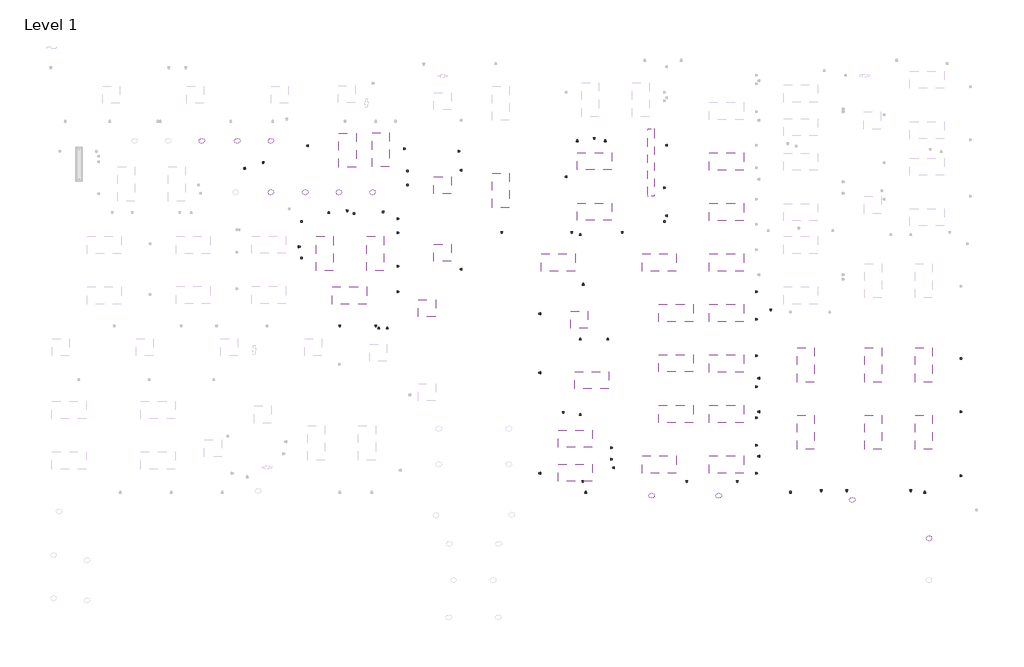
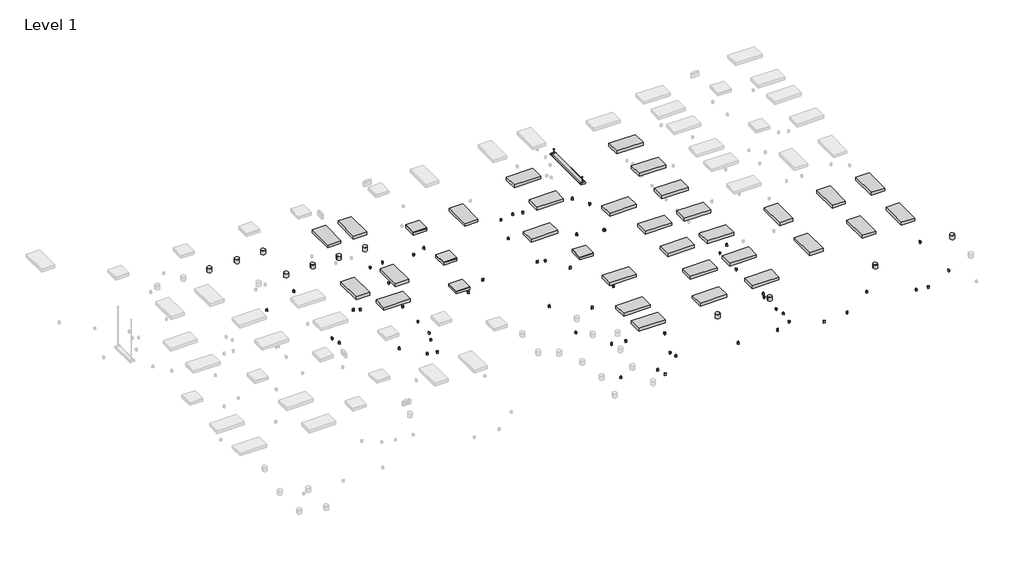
# One storey, part 9 of 10: 59 outlets, 57 light fixtures.
"""IFC4 building model written with IfcOpenShell, lengths in millimetres."""

from ifc_helpers import new_model, si_unit, origin, place, context, project, spatial, transform, mapped, element, save
from components import m_downlight_recessed_can_lv_203mm_diameter_9ee1ae92, m_duplex_receptacle_gfci_10251bba, m_pendant_light_linear_b0fb1284, m_troffer_light_parabolic_rectangular_a2_0610x1219mm_aa7a7dc7, m_troffer_light_parabolic_square_b3_610x610mm_801c9e30

model = new_model("IFC4")

# Units and contexts
model_context = context("Model", 3, world=origin())
ifc_project = project(units=[si_unit("LENGTHUNIT", "METRE", prefix="MILLI")], contexts=[model_context])

# Site, building, storey
site = spatial("IfcSite", under=ifc_project)
building = spatial("IfcBuilding", under=site)
storey = spatial("IfcBuildingStorey", under=building, Name="Level 1", Elevation=0.0)

# Light fixtures
placement = place(None, origin())
m_downlight_recessed_can_lv_203mm_diameter_shape = m_downlight_recessed_can_lv_203mm_diameter_9ee1ae92(model_context)
element("IfcLightFixture", 1, ObjectType="M_Downlight - Recessed Can : LV - 203mm Diameter", at=placement, inside=storey, context=model_context, shape_type="MappedRepresentation", body=[
    mapped(m_downlight_recessed_can_lv_203mm_diameter_shape, transform((-1340.0, 33184.9994, 3800.0), x_axis=(1.0, 0.0, 0.0), y_axis=(0.0, -1.0, 0.0), z_axis=(0.0, 0.0, -1.0))),
])
element("IfcLightFixture", 2, ObjectType="M_Downlight - Recessed Can : LV - 203mm Diameter", at=placement, inside=storey, context=model_context, shape_type="MappedRepresentation", body=[
    mapped(m_downlight_recessed_can_lv_203mm_diameter_shape, transform((-4080.0, 34555.0, 2500.0), x_axis=(1.0, 0.0, 0.0), y_axis=(0.0, -1.0, 0.0), z_axis=(0.0, 0.0, -1.0))),
])
element("IfcLightFixture", 3, ObjectType="M_Downlight - Recessed Can : LV - 203mm Diameter", at=placement, inside=storey, context=model_context, shape_type="MappedRepresentation", body=[
    mapped(m_downlight_recessed_can_lv_203mm_diameter_shape, transform((-8836.4347451, 34708.3717231, 2500.0), x_axis=(1.0, 0.0, 0.0), y_axis=(0.0, -1.0, 0.0), z_axis=(0.0, 0.0, -1.0))),
])
element("IfcLightFixture", 4, ObjectType="M_Downlight - Recessed Can : LV - 203mm Diameter", at=placement, inside=storey, context=model_context, shape_type="MappedRepresentation", body=[
    mapped(m_downlight_recessed_can_lv_203mm_diameter_shape, transform((-11227.7821716, 34708.3717231, 2500.0), x_axis=(1.0, 0.0, 0.0), y_axis=(0.0, -1.0, 0.0), z_axis=(0.0, 0.0, -1.0))),
])
element("IfcLightFixture", 5, ObjectType="M_Downlight - Recessed Can : SB - 102mm Diameter", at=placement, inside=storey, context=model_context, shape_type="MappedRepresentation", body=[
    mapped(m_downlight_recessed_can_lv_203mm_diameter_shape, transform((-27262.0, 47349.3742139, 2680.0), x_axis=(1.0, 0.0, 0.0), y_axis=(0.0, -1.0, 0.0), z_axis=(0.0, 0.0, -1.0))),
])
element("IfcLightFixture", 6, ObjectType="M_Downlight - Recessed Can : SB - 102mm Diameter", at=placement, inside=storey, context=model_context, shape_type="MappedRepresentation", body=[
    mapped(m_downlight_recessed_can_lv_203mm_diameter_shape, transform((-26000.0, 47349.3742139, 2680.0), x_axis=(1.0, 0.0, 0.0), y_axis=(0.0, -1.0, 0.0), z_axis=(0.0, 0.0, -1.0))),
])
element("IfcLightFixture", 7, ObjectType="M_Downlight - Recessed Can : SB - 102mm Diameter", at=placement, inside=storey, context=model_context, shape_type="MappedRepresentation", body=[
    mapped(m_downlight_recessed_can_lv_203mm_diameter_shape, transform((-24800.0, 47349.3742139, 2680.0), x_axis=(1.0, 0.0, 0.0), y_axis=(0.0, -1.0, 0.0), z_axis=(0.0, 0.0, -1.0))),
])
element("IfcLightFixture", 8, ObjectType="M_Downlight - Recessed Can : SB - 102mm Diameter", at=placement, inside=storey, context=model_context, shape_type="MappedRepresentation", body=[
    mapped(m_downlight_recessed_can_lv_203mm_diameter_shape, transform((-24800.0, 45520.0, 2680.0), x_axis=(1.0, 0.0, 0.0), y_axis=(0.0, -1.0, 0.0), z_axis=(0.0, 0.0, -1.0))),
])
element("IfcLightFixture", 9, ObjectType="M_Downlight - Recessed Can : SB - 102mm Diameter", at=placement, inside=storey, context=model_context, shape_type="MappedRepresentation", body=[
    mapped(m_downlight_recessed_can_lv_203mm_diameter_shape, transform((-23576.9816763, 45520.0, 2680.0), x_axis=(1.0, 0.0, 0.0), y_axis=(0.0, -1.0, 0.0), z_axis=(0.0, 0.0, -1.0))),
])
element("IfcLightFixture", 10, ObjectType="M_Downlight - Recessed Can : SB - 102mm Diameter", at=placement, inside=storey, context=model_context, shape_type="MappedRepresentation", body=[
    mapped(m_downlight_recessed_can_lv_203mm_diameter_shape, transform((-22376.9816763, 45520.0, 2680.0), x_axis=(1.0, 0.0, 0.0), y_axis=(0.0, -1.0, 0.0), z_axis=(0.0, 0.0, -1.0))),
])
element("IfcLightFixture", 11, ObjectType="M_Downlight - Recessed Can : SB - 102mm Diameter", at=placement, inside=storey, context=model_context, shape_type="MappedRepresentation", body=[
    mapped(m_downlight_recessed_can_lv_203mm_diameter_shape, transform((-21176.9816763, 45520.0, 2680.0), x_axis=(1.0, 0.0, 0.0), y_axis=(0.0, -1.0, 0.0), z_axis=(0.0, 0.0, -1.0))),
])
m_duplex_receptacle_gfci_shape = m_duplex_receptacle_gfci_10251bba(model_context)
element("IfcLightFixture", 12, ObjectType="M_Lighting Switches : Single Pole", at=placement, inside=storey, context=model_context, shape_type="MappedRepresentation", body=[
    mapped(m_duplex_receptacle_gfci_shape, transform((-20960.0, 40660.0, 1200.0), x_axis=(1.0, 0.0, 0.0), y_axis=(0.0, 0.0, 1.0), z_axis=(0.0, -1.0, 0.0))),
])
element("IfcLightFixture", 13, ObjectType="M_Lighting Switches : Single Pole", at=placement, inside=storey, context=model_context, shape_type="MappedRepresentation", body=[
    mapped(m_duplex_receptacle_gfci_shape, transform((-22340.0, 40784.0, 1200.0), x_axis=(-1.0, 0.0, 0.0), y_axis=(0.0, 0.0, 1.0), z_axis=(0.0, 1.0, 0.0))),
])
element("IfcLightFixture", 14, ObjectType="M_Lighting Switches : Single Pole", at=placement, inside=storey, context=model_context, shape_type="MappedRepresentation", body=[
    mapped(m_duplex_receptacle_gfci_shape, transform((-19954.0, 46280.0, 1200.0), x_axis=(0.0, -1.0, 0.0), y_axis=(0.0, 0.0, 1.0), z_axis=(-1.0, 0.0, 0.0))),
])
element("IfcLightFixture", 15, ObjectType="M_Lighting Switches : Single Pole", at=placement, inside=storey, context=model_context, shape_type="MappedRepresentation", body=[
    mapped(m_duplex_receptacle_gfci_shape, transform((-17996.0, 46309.9542471, 1200.0), x_axis=(0.0, 1.0, 0.0), y_axis=(0.0, 0.0, 1.0), z_axis=(1.0, 0.0, 0.0))),
])
element("IfcLightFixture", 16, ObjectType="M_Lighting Switches : Single Pole", at=placement, inside=storey, context=model_context, shape_type="MappedRepresentation", body=[
    mapped(m_duplex_receptacle_gfci_shape, transform((-17996.0, 42777.6448, 1200.0), x_axis=(0.0, 1.0, 0.0), y_axis=(0.0, 0.0, 1.0), z_axis=(1.0, 0.0, 0.0))),
])
element("IfcLightFixture", 17, ObjectType="M_Lighting Switches : Single Pole", at=placement, inside=storey, context=model_context, shape_type="MappedRepresentation", body=[
    mapped(m_duplex_receptacle_gfci_shape, transform((-12279.975, 44114.0, 1200.0), x_axis=(-1.0, 0.0, 0.0), y_axis=(0.0, 0.0, 1.0), z_axis=(0.0, 1.0, 0.0))),
])
element("IfcLightFixture", 18, ObjectType="M_Lighting Switches : Single Pole", at=placement, inside=storey, context=model_context, shape_type="MappedRepresentation", body=[
    mapped(m_duplex_receptacle_gfci_shape, transform((-10794.0, 45680.0, 1200.0), x_axis=(0.0, -1.0, 0.0), y_axis=(0.0, 0.0, 1.0), z_axis=(-1.0, 0.0, 0.0))),
])
element("IfcLightFixture", 19, ObjectType="M_Lighting Switches : Single Pole", at=placement, inside=storey, context=model_context, shape_type="MappedRepresentation", body=[
    mapped(m_duplex_receptacle_gfci_shape, transform((-4280.0, 34904.0, 1200.0), x_axis=(-1.0, 0.0, 0.0), y_axis=(0.0, 0.0, 1.0), z_axis=(0.0, 1.0, 0.0))),
])
element("IfcLightFixture", 20, ObjectType="M_Lighting Switches : Single Pole", at=placement, inside=storey, context=model_context, shape_type="MappedRepresentation", body=[
    mapped(m_duplex_receptacle_gfci_shape, transform((-12684.0, 36409.9453301, 1200.0), x_axis=(0.0, -1.0, 0.0), y_axis=(0.0, 0.0, 1.0), z_axis=(-1.0, 0.0, 0.0))),
])
element("IfcLightFixture", 21, ObjectType="M_Lighting Switches : Single Pole", at=placement, inside=storey, context=model_context, shape_type="MappedRepresentation", body=[
    mapped(m_duplex_receptacle_gfci_shape, transform((-12799.975, 40260.0, 1200.0), x_axis=(1.0, 0.0, 0.0), y_axis=(0.0, 0.0, 1.0), z_axis=(0.0, -1.0, 0.0))),
])
element("IfcLightFixture", 22, ObjectType="M_Lighting Switches : Single Pole", at=placement, inside=storey, context=model_context, shape_type="MappedRepresentation", body=[
    mapped(m_duplex_receptacle_gfci_shape, transform((-13659.975, 42218.0006932, 1200.0), x_axis=(1.0, 0.0, 0.0), y_axis=(0.0, 0.0, 1.0), z_axis=(0.0, -1.0, 0.0))),
])
m_pendant_light_linear_shape = m_pendant_light_linear_b0fb1284(model_context)
element("IfcLightFixture", 23, ObjectType="M_Pendant Light - Linear : Q1 - 1219mm", at=placement, inside=storey, context=model_context, shape_type="MappedRepresentation", body=[
    mapped(m_pendant_light_linear_shape, transform((-11245.0, 46577.1187843, 2800.0), x_axis=(0.0, -1.0, 0.0), y_axis=(-1.0, 0.0, 0.0), z_axis=(0.0, 0.0, -1.0))),
])
m_troffer_light_parabolic_rectangular_a2_0610x1219mm_shape = m_troffer_light_parabolic_rectangular_a2_0610x1219mm_aa7a7dc7(model_context)
element("IfcLightFixture", 24, ObjectType="M_Troffer Light - Parabolic Rectangular : A2 - 0610x1219mm", at=placement, inside=storey, context=model_context, shape_type="MappedRepresentation", body=[
    mapped(m_troffer_light_parabolic_rectangular_a2_0610x1219mm_shape, transform((-8562.6, 45121.5, 2680.0), x_axis=(-1.0, 0.0, 0.0), y_axis=(0.0, 1.0, 0.0), z_axis=(0.0, 0.0, -1.0))),
])
element("IfcLightFixture", 25, ObjectType="M_Troffer Light - Parabolic Rectangular : A2 - 0610x1219mm", at=placement, inside=storey, context=model_context, shape_type="MappedRepresentation", body=[
    mapped(m_troffer_light_parabolic_rectangular_a2_0610x1219mm_shape, transform((-8562.6, 43321.5, 2680.0), x_axis=(-1.0, 0.0, 0.0), y_axis=(0.0, 1.0, 0.0), z_axis=(0.0, 0.0, -1.0))),
])
element("IfcLightFixture", 26, ObjectType="M_Troffer Light - Parabolic Rectangular : A2 - 0610x1219mm", at=placement, inside=storey, context=model_context, shape_type="MappedRepresentation", body=[
    mapped(m_troffer_light_parabolic_rectangular_a2_0610x1219mm_shape, transform((-14562.6, 43321.5, 2680.0), x_axis=(-1.0, 0.0, 0.0), y_axis=(0.0, 1.0, 0.0), z_axis=(0.0, 0.0, -1.0))),
])
element("IfcLightFixture", 27, ObjectType="M_Troffer Light - Parabolic Rectangular : A2 - 0610x1219mm", at=placement, inside=storey, context=model_context, shape_type="MappedRepresentation", body=[
    mapped(m_troffer_light_parabolic_rectangular_a2_0610x1219mm_shape, transform((-10362.6, 41521.5, 2680.0), x_axis=(-1.0, 0.0, 0.0), y_axis=(0.0, 1.0, 0.0), z_axis=(0.0, 0.0, -1.0))),
])
element("IfcLightFixture", 28, ObjectType="M_Troffer Light - Parabolic Rectangular : A2 - 0610x1219mm", at=placement, inside=storey, context=model_context, shape_type="MappedRepresentation", body=[
    mapped(m_troffer_light_parabolic_rectangular_a2_0610x1219mm_shape, transform((-8562.6, 41521.5, 2680.0), x_axis=(-1.0, 0.0, 0.0), y_axis=(0.0, 1.0, 0.0), z_axis=(0.0, 0.0, -1.0))),
])
element("IfcLightFixture", 29, ObjectType="M_Troffer Light - Parabolic Rectangular : A2 - 0610x1219mm", at=placement, inside=storey, context=model_context, shape_type="MappedRepresentation", body=[
    mapped(m_troffer_light_parabolic_rectangular_a2_0610x1219mm_shape, transform((-8562.6, 39721.5, 2680.0), x_axis=(-1.0, 0.0, 0.0), y_axis=(0.0, 1.0, 0.0), z_axis=(0.0, 0.0, -1.0))),
])
element("IfcLightFixture", 30, ObjectType="M_Troffer Light - Parabolic Rectangular : A2 - 0610x1219mm", at=placement, inside=storey, context=model_context, shape_type="MappedRepresentation", body=[
    mapped(m_troffer_light_parabolic_rectangular_a2_0610x1219mm_shape, transform((-10362.6, 39731.1, 2680.0), x_axis=(-1.0, 0.0, 0.0), y_axis=(0.0, 1.0, 0.0), z_axis=(0.0, 0.0, -1.0))),
])
element("IfcLightFixture", 31, ObjectType="M_Troffer Light - Parabolic Rectangular : A2 - 0610x1219mm", at=placement, inside=storey, context=model_context, shape_type="MappedRepresentation", body=[
    mapped(m_troffer_light_parabolic_rectangular_a2_0610x1219mm_shape, transform((-10362.6, 37921.5, 2680.0), x_axis=(-1.0, 0.0, 0.0), y_axis=(0.0, 1.0, 0.0), z_axis=(0.0, 0.0, -1.0))),
])
element("IfcLightFixture", 32, ObjectType="M_Troffer Light - Parabolic Rectangular : A2 - 0610x1219mm", at=placement, inside=storey, context=model_context, shape_type="MappedRepresentation", body=[
    mapped(m_troffer_light_parabolic_rectangular_a2_0610x1219mm_shape, transform((-8562.6, 36121.5, 2680.0), x_axis=(-1.0, 0.0, 0.0), y_axis=(0.0, 1.0, 0.0), z_axis=(0.0, 0.0, -1.0))),
])
element("IfcLightFixture", 33, ObjectType="M_Troffer Light - Parabolic Rectangular : A2 - 0610x1219mm", at=placement, inside=storey, context=model_context, shape_type="MappedRepresentation", body=[
    mapped(m_troffer_light_parabolic_rectangular_a2_0610x1219mm_shape, transform((-10962.6, 36121.5, 2680.0), x_axis=(-1.0, 0.0, 0.0), y_axis=(0.0, 1.0, 0.0), z_axis=(0.0, 0.0, -1.0))),
])
element("IfcLightFixture", 34, ObjectType="M_Troffer Light - Parabolic Rectangular : A2 - 0610x1219mm", at=placement, inside=storey, context=model_context, shape_type="MappedRepresentation", body=[
    mapped(m_troffer_light_parabolic_rectangular_a2_0610x1219mm_shape, transform((-13362.6, 39131.1, 2680.0), x_axis=(-1.0, 0.0, 0.0), y_axis=(0.0, 1.0, 0.0), z_axis=(0.0, 0.0, -1.0))),
])
element("IfcLightFixture", 35, ObjectType="M_Troffer Light - Parabolic Rectangular : A2 - 0610x1219mm", at=placement, inside=storey, context=model_context, shape_type="MappedRepresentation", body=[
    mapped(m_troffer_light_parabolic_rectangular_a2_0610x1219mm_shape, transform((-1836.5, 39363.9, 2680.0), x_axis=(0.0, -1.0, 0.0), y_axis=(-1.0, 0.0, 0.0), z_axis=(0.0, 0.0, -1.0))),
])
element("IfcLightFixture", 36, ObjectType="M_Troffer Light - Parabolic Rectangular : A2 - 0610x1219mm", at=placement, inside=storey, context=model_context, shape_type="MappedRepresentation", body=[
    mapped(m_troffer_light_parabolic_rectangular_a2_0610x1219mm_shape, transform((-3636.5, 39363.9, 2680.0), x_axis=(0.0, -1.0, 0.0), y_axis=(-1.0, 0.0, 0.0), z_axis=(0.0, 0.0, -1.0))),
])
element("IfcLightFixture", 37, ObjectType="M_Troffer Light - Parabolic Rectangular : A2 - 0610x1219mm", at=placement, inside=storey, context=model_context, shape_type="MappedRepresentation", body=[
    mapped(m_troffer_light_parabolic_rectangular_a2_0610x1219mm_shape, transform((-1836.5, 36963.9, 2680.0), x_axis=(0.0, -1.0, 0.0), y_axis=(-1.0, 0.0, 0.0), z_axis=(0.0, 0.0, -1.0))),
])
element("IfcLightFixture", 38, ObjectType="M_Troffer Light - Parabolic Rectangular : A2 - 0610x1219mm", at=placement, inside=storey, context=model_context, shape_type="MappedRepresentation", body=[
    mapped(m_troffer_light_parabolic_rectangular_a2_0610x1219mm_shape, transform((-6046.1, 39363.9, 2680.0), x_axis=(0.0, -1.0, 0.0), y_axis=(-1.0, 0.0, 0.0), z_axis=(0.0, 0.0, -1.0))),
])
element("IfcLightFixture", 39, ObjectType="M_Troffer Light - Parabolic Rectangular : A2 - 0610x1219mm", at=placement, inside=storey, context=model_context, shape_type="MappedRepresentation", body=[
    mapped(m_troffer_light_parabolic_rectangular_a2_0610x1219mm_shape, transform((-6046.1, 36963.9, 2680.0), x_axis=(0.0, -1.0, 0.0), y_axis=(-1.0, 0.0, 0.0), z_axis=(0.0, 0.0, -1.0))),
])
element("IfcLightFixture", 40, ObjectType="M_Troffer Light - Parabolic Rectangular : A2B - 0610x1219mm", at=placement, inside=storey, context=model_context, shape_type="MappedRepresentation", body=[
    mapped(m_troffer_light_parabolic_rectangular_a2_0610x1219mm_shape, transform((-8562.6, 46921.5, 2680.0), x_axis=(-1.0, 0.0, 0.0), y_axis=(0.0, 1.0, 0.0), z_axis=(0.0, 0.0, -1.0))),
])
element("IfcLightFixture", 41, ObjectType="M_Troffer Light - Parabolic Rectangular : A2B - 0610x1219mm", at=placement, inside=storey, context=model_context, shape_type="MappedRepresentation", body=[
    mapped(m_troffer_light_parabolic_rectangular_a2_0610x1219mm_shape, transform((-10962.6, 43321.5, 2680.0), x_axis=(-1.0, 0.0, 0.0), y_axis=(0.0, 1.0, 0.0), z_axis=(0.0, 0.0, -1.0))),
])
element("IfcLightFixture", 42, ObjectType="M_Troffer Light - Parabolic Rectangular : A2B - 0610x1219mm", at=placement, inside=storey, context=model_context, shape_type="MappedRepresentation", body=[
    mapped(m_troffer_light_parabolic_rectangular_a2_0610x1219mm_shape, transform((-8562.6, 37921.5, 2680.0), x_axis=(-1.0, 0.0, 0.0), y_axis=(0.0, 1.0, 0.0), z_axis=(0.0, 0.0, -1.0))),
])
element("IfcLightFixture", 43, ObjectType="M_Troffer Light - Parabolic Rectangular : A2B - 0610x1219mm", at=placement, inside=storey, context=model_context, shape_type="MappedRepresentation", body=[
    mapped(m_troffer_light_parabolic_rectangular_a2_0610x1219mm_shape, transform((-3636.5, 36963.9, 2680.0), x_axis=(0.0, -1.0, 0.0), y_axis=(-1.0, 0.0, 0.0), z_axis=(0.0, 0.0, -1.0))),
])
element("IfcLightFixture", 44, ObjectType="M_Troffer Light - Parabolic Rectangular : B1 - 0610x1219mm", at=placement, inside=storey, context=model_context, shape_type="MappedRepresentation", body=[
    mapped(m_troffer_light_parabolic_rectangular_a2_0610x1219mm_shape, transform((-13264.6, 45124.5, 2680.0), x_axis=(-1.0, 0.0, 0.0), y_axis=(0.0, 1.0, 0.0), z_axis=(0.0, 0.0, -1.0))),
])
element("IfcLightFixture", 45, ObjectType="M_Troffer Light - Parabolic Rectangular : B1 - 0610x1219mm", at=placement, inside=storey, context=model_context, shape_type="MappedRepresentation", body=[
    mapped(m_troffer_light_parabolic_rectangular_a2_0610x1219mm_shape, transform((-13264.6, 46924.5, 2680.0), x_axis=(-1.0, 0.0, 0.0), y_axis=(0.0, 1.0, 0.0), z_axis=(0.0, 0.0, -1.0))),
])
element("IfcLightFixture", 46, ObjectType="M_Troffer Light - Parabolic Rectangular : B1 - 0610x1219mm", at=placement, inside=storey, context=model_context, shape_type="MappedRepresentation", body=[
    mapped(m_troffer_light_parabolic_rectangular_a2_0610x1219mm_shape, transform((-13949.6, 35825.0, 2680.0), x_axis=(-1.0, 0.0, 0.0), y_axis=(0.0, 1.0, 0.0), z_axis=(0.0, 0.0, -1.0))),
])
element("IfcLightFixture", 47, ObjectType="M_Troffer Light - Parabolic Rectangular : B1 - 0610x1219mm", at=placement, inside=storey, context=model_context, shape_type="MappedRepresentation", body=[
    mapped(m_troffer_light_parabolic_rectangular_a2_0610x1219mm_shape, transform((-13949.6, 37034.6, 2680.0), x_axis=(-1.0, 0.0, 0.0), y_axis=(0.0, 1.0, 0.0), z_axis=(0.0, 0.0, -1.0))),
])
element("IfcLightFixture", 48, ObjectType="M_Troffer Light - Parabolic Rectangular : B1 - 0610x1219mm", at=placement, inside=storey, context=model_context, shape_type="MappedRepresentation", body=[
    mapped(m_troffer_light_parabolic_rectangular_a2_0610x1219mm_shape, transform((-16918.0, 45587.4, 2680.0), x_axis=(0.0, -1.0, 0.0), y_axis=(-1.0, 0.0, 0.0), z_axis=(0.0, 0.0, -1.0))),
])
element("IfcLightFixture", 49, ObjectType="M_Troffer Light - Parabolic Rectangular : B18 - 0610x1219mm", at=placement, inside=storey, context=model_context, shape_type="MappedRepresentation", body=[
    mapped(m_troffer_light_parabolic_rectangular_a2_0610x1219mm_shape, transform((-22376.9816763, 47018.4, 2680.0), x_axis=(0.0, -1.0, 0.0), y_axis=(-1.0, 0.0, 0.0), z_axis=(0.0, 0.0, -1.0))),
])
element("IfcLightFixture", 50, ObjectType="M_Troffer Light - Parabolic Rectangular : B18 - 0610x1219mm", at=placement, inside=storey, context=model_context, shape_type="MappedRepresentation", body=[
    mapped(m_troffer_light_parabolic_rectangular_a2_0610x1219mm_shape, transform((-21186.5816763, 47037.6, 2680.0), x_axis=(0.0, -1.0, 0.0), y_axis=(-1.0, 0.0, 0.0), z_axis=(0.0, 0.0, -1.0))),
])
element("IfcLightFixture", 51, ObjectType="M_Troffer Light - Parabolic Rectangular : C18 - 0610x1219mm", at=placement, inside=storey, context=model_context, shape_type="MappedRepresentation", body=[
    mapped(m_troffer_light_parabolic_rectangular_a2_0610x1219mm_shape, transform((-22000.1172849, 42144.9870757, 2680.0), x_axis=(-1.0, 0.0, 0.0), y_axis=(0.0, 1.0, 0.0), z_axis=(0.0, 0.0, -1.0))),
])
element("IfcLightFixture", 52, ObjectType="M_Troffer Light - Parabolic Rectangular : C18 - 0610x1219mm", at=placement, inside=storey, context=model_context, shape_type="MappedRepresentation", body=[
    mapped(m_troffer_light_parabolic_rectangular_a2_0610x1219mm_shape, transform((-21390.5172849, 43335.3870757, 2680.0), x_axis=(0.0, -1.0, 0.0), y_axis=(-1.0, 0.0, 0.0), z_axis=(0.0, 0.0, -1.0))),
])
element("IfcLightFixture", 53, ObjectType="M_Troffer Light - Parabolic Rectangular : C18B - 0610x1219mm", at=placement, inside=storey, context=model_context, shape_type="MappedRepresentation", body=[
    mapped(m_troffer_light_parabolic_rectangular_a2_0610x1219mm_shape, transform((-23190.5172849, 43335.3870757, 2680.0), x_axis=(0.0, -1.0, 0.0), y_axis=(-1.0, 0.0, 0.0), z_axis=(0.0, 0.0, -1.0))),
])
m_troffer_light_parabolic_square_b3_610x610mm_shape = m_troffer_light_parabolic_square_b3_610x610mm_801c9e30(model_context)
element("IfcLightFixture", 54, ObjectType="M_Troffer Light - Parabolic Square : B3 - 610x610mm", at=placement, inside=storey, context=model_context, shape_type="MappedRepresentation", body=[
    mapped(m_troffer_light_parabolic_square_b3_610x610mm_shape, transform((-19238.2, 41081.0003466, 2680.0), x_axis=(1.0, 0.0, 0.0), y_axis=(0.0, -1.0, 0.0), z_axis=(0.0, 0.0, -1.0))),
])
element("IfcLightFixture", 55, ObjectType="M_Troffer Light - Parabolic Square : B3 - 610x610mm", at=placement, inside=storey, context=model_context, shape_type="MappedRepresentation", body=[
    mapped(m_troffer_light_parabolic_square_b3_610x610mm_shape, transform((-18683.2, 43061.5003466, 2680.0), x_axis=(1.0, 0.0, 0.0), y_axis=(0.0, -1.0, 0.0), z_axis=(0.0, 0.0, -1.0))),
])
element("IfcLightFixture", 56, ObjectType="M_Troffer Light - Parabolic Square : B3 - 610x610mm", at=placement, inside=storey, context=model_context, shape_type="MappedRepresentation", body=[
    mapped(m_troffer_light_parabolic_square_b3_610x610mm_shape, transform((-18683.2, 45461.5003466, 2680.0), x_axis=(1.0, 0.0, 0.0), y_axis=(0.0, -1.0, 0.0), z_axis=(0.0, 0.0, -1.0))),
])
element("IfcLightFixture", 57, ObjectType="M_Troffer Light - Parabolic Square : B3 - 610x610mm", at=placement, inside=storey, context=model_context, shape_type="MappedRepresentation", body=[
    mapped(m_troffer_light_parabolic_square_b3_610x610mm_shape, transform((-13805.7, 40670.0003466, 2680.0), x_axis=(1.0, 0.0, 0.0), y_axis=(0.0, -1.0, 0.0), z_axis=(0.0, 0.0, -1.0))),
])

# Outlets
element("IfcOutlet", 58, ObjectType="M_Duplex Receptacle : Standard", at=placement, inside=storey, context=model_context, shape_type="MappedRepresentation", body=[
    mapped(m_duplex_receptacle_gfci_shape, transform((-25077.8889821, 46596.6104774, 500.0), x_axis=(-0.983537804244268, -0.18070248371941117, 0.0), y_axis=(0.0, 0.0, 1.0), z_axis=(-0.18070248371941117, 0.983537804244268, 0.0))),
])
element("IfcOutlet", 59, ObjectType="M_Duplex Receptacle : Standard", at=placement, inside=storey, context=model_context, shape_type="MappedRepresentation", body=[
    mapped(m_duplex_receptacle_gfci_shape, transform((-23814.0, 43577.6448, 500.0), x_axis=(0.0, -1.0, 0.0), y_axis=(0.0, 0.0, 1.0), z_axis=(-1.0, 0.0, 0.0))),
])
element("IfcOutlet", 60, ObjectType="M_Duplex Receptacle : Standard", at=placement, inside=storey, context=model_context, shape_type="MappedRepresentation", body=[
    mapped(m_duplex_receptacle_gfci_shape, transform((-23690.0, 43177.6448, 500.0), x_axis=(0.0, 1.0, 0.0), y_axis=(0.0, 0.0, 1.0), z_axis=(1.0, 0.0, 0.0))),
])
element("IfcOutlet", 61, ObjectType="M_Duplex Receptacle : Standard", at=placement, inside=storey, context=model_context, shape_type="MappedRepresentation", body=[
    mapped(m_duplex_receptacle_gfci_shape, transform((-23690.0, 44480.0, 500.0), x_axis=(0.0, 1.0, 0.0), y_axis=(0.0, 0.0, 1.0), z_axis=(1.0, 0.0, 0.0))),
])
element("IfcOutlet", 62, ObjectType="M_Duplex Receptacle : Standard", at=placement, inside=storey, context=model_context, shape_type="MappedRepresentation", body=[
    mapped(m_duplex_receptacle_gfci_shape, transform((-22740.0, 44780.0, 500.0), x_axis=(1.0, 0.0, 0.0), y_axis=(0.0, 0.0, 1.0), z_axis=(0.0, -1.0, 0.0))),
])
element("IfcOutlet", 63, ObjectType="M_Duplex Receptacle : Standard", at=placement, inside=storey, context=model_context, shape_type="MappedRepresentation", body=[
    mapped(m_duplex_receptacle_gfci_shape, transform((-21840.0, 44740.0, 500.0), x_axis=(1.0, 0.0, 0.0), y_axis=(0.0, 0.0, 1.0), z_axis=(0.0, -1.0, 0.0))),
])
element("IfcOutlet", 64, ObjectType="M_Duplex Receptacle : Standard", at=placement, inside=storey, context=model_context, shape_type="MappedRepresentation", body=[
    mapped(m_duplex_receptacle_gfci_shape, transform((-20290.0, 44580.0, 500.0), x_axis=(0.0, -1.0, 0.0), y_axis=(0.0, 0.0, 1.0), z_axis=(-1.0, 0.0, 0.0))),
])
element("IfcOutlet", 65, ObjectType="M_Duplex Receptacle : Standard", at=placement, inside=storey, context=model_context, shape_type="MappedRepresentation", body=[
    mapped(m_duplex_receptacle_gfci_shape, transform((-20290.0, 44080.0, 500.0), x_axis=(0.0, -1.0, 0.0), y_axis=(0.0, 0.0, 1.0), z_axis=(-1.0, 0.0, 0.0))),
])
element("IfcOutlet", 66, ObjectType="M_Duplex Receptacle : Standard", at=placement, inside=storey, context=model_context, shape_type="MappedRepresentation", body=[
    mapped(m_duplex_receptacle_gfci_shape, transform((-20290.0, 42877.6448, 500.0), x_axis=(0.0, -1.0, 0.0), y_axis=(0.0, 0.0, 1.0), z_axis=(-1.0, 0.0, 0.0))),
])
element("IfcOutlet", 67, ObjectType="M_Duplex Receptacle : Standard", at=placement, inside=storey, context=model_context, shape_type="MappedRepresentation", body=[
    mapped(m_duplex_receptacle_gfci_shape, transform((-20290.0, 41977.6448, 500.0), x_axis=(0.0, -1.0, 0.0), y_axis=(0.0, 0.0, 1.0), z_axis=(-1.0, 0.0, 0.0))),
])
element("IfcOutlet", 68, ObjectType="M_Duplex Receptacle : Standard", at=placement, inside=storey, context=model_context, shape_type="MappedRepresentation", body=[
    mapped(m_duplex_receptacle_gfci_shape, transform((-21060.0, 40784.0, 500.0), x_axis=(-1.0, 0.0, 0.0), y_axis=(0.0, 0.0, 1.0), z_axis=(0.0, 1.0, 0.0))),
])
element("IfcOutlet", 69, ObjectType="M_Duplex Receptacle : Standard", at=placement, inside=storey, context=model_context, shape_type="MappedRepresentation", body=[
    mapped(m_duplex_receptacle_gfci_shape, transform((-20660.0, 40660.0, 500.0), x_axis=(1.0, 0.0, 0.0), y_axis=(0.0, 0.0, 1.0), z_axis=(0.0, -1.0, 0.0))),
])
element("IfcOutlet", 70, ObjectType="M_Duplex Receptacle : Standard", at=placement, inside=storey, context=model_context, shape_type="MappedRepresentation", body=[
    mapped(m_duplex_receptacle_gfci_shape, transform((-23475.0, 47180.0, 500.0), x_axis=(0.0, 1.0, 0.0), y_axis=(0.0, 0.0, 1.0), z_axis=(1.0, 0.0, 0.0))),
])
element("IfcOutlet", 71, ObjectType="M_Duplex Receptacle : Standard", at=placement, inside=storey, context=model_context, shape_type="MappedRepresentation", body=[
    mapped(m_duplex_receptacle_gfci_shape, transform((-20060.0, 47080.0, 500.0), x_axis=(0.0, -1.0, 0.0), y_axis=(0.0, 0.0, 1.0), z_axis=(-1.0, 0.0, 0.0))),
])
element("IfcOutlet", 72, ObjectType="M_Duplex Receptacle : Standard", at=placement, inside=storey, context=model_context, shape_type="MappedRepresentation", body=[
    mapped(m_duplex_receptacle_gfci_shape, transform((-19954.0, 45780.0, 500.0), x_axis=(0.0, -1.0, 0.0), y_axis=(0.0, 0.0, 1.0), z_axis=(-1.0, 0.0, 0.0))),
])
element("IfcOutlet", 73, ObjectType="M_Duplex Receptacle : Standard", at=placement, inside=storey, context=model_context, shape_type="MappedRepresentation", body=[
    mapped(m_duplex_receptacle_gfci_shape, transform((-20803.4505379, 44845.6116718, 500.0), x_axis=(-0.9995380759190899, 0.030391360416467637, 0.0), y_axis=(0.0, 0.0, 1.0), z_axis=(0.030391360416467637, 0.9995380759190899, 0.0))),
])
element("IfcOutlet", 74, ObjectType="M_Duplex Receptacle : Standard", at=placement, inside=storey, context=model_context, shape_type="MappedRepresentation", body=[
    mapped(m_duplex_receptacle_gfci_shape, transform((-22080.6120169, 44884.4442843, 500.0), x_axis=(-0.9995380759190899, 0.030391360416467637, 0.0), y_axis=(0.0, 0.0, 1.0), z_axis=(0.030391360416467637, 0.9995380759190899, 0.0))),
])
element("IfcOutlet", 75, ObjectType="M_Duplex Receptacle : Standard", at=placement, inside=storey, context=model_context, shape_type="MappedRepresentation", body=[
    mapped(m_duplex_receptacle_gfci_shape, transform((-25732.7340608, 46350.222254, 500.0), x_axis=(0.983537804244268, 0.18070248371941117, 0.0), y_axis=(0.0, 0.0, 1.0), z_axis=(0.18070248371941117, -0.983537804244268, 0.0))),
])
element("IfcOutlet", 76, ObjectType="M_Duplex Receptacle : Standard", at=placement, inside=storey, context=model_context, shape_type="MappedRepresentation", body=[
    mapped(m_duplex_receptacle_gfci_shape, transform((-18120.0, 46990.0, 500.0), x_axis=(0.0, -1.0, 0.0), y_axis=(0.0, 0.0, 1.0), z_axis=(-1.0, 0.0, 0.0))),
])
element("IfcOutlet", 77, ObjectType="M_Duplex Receptacle : Standard", at=placement, inside=storey, context=model_context, shape_type="MappedRepresentation", body=[
    mapped(m_duplex_receptacle_gfci_shape, transform((-13279.975, 47459.0, 500.0), x_axis=(-1.0, 0.0, 0.0), y_axis=(0.0, 0.0, 1.0), z_axis=(0.0, 1.0, 0.0))),
])
element("IfcOutlet", 78, ObjectType="M_Duplex Receptacle : Standard", at=placement, inside=storey, context=model_context, shape_type="MappedRepresentation", body=[
    mapped(m_duplex_receptacle_gfci_shape, transform((-13879.975, 47335.0, 500.0), x_axis=(1.0, 0.0, 0.0), y_axis=(0.0, 0.0, 1.0), z_axis=(0.0, -1.0, 0.0))),
])
element("IfcOutlet", 79, ObjectType="M_Duplex Receptacle : Standard", at=placement, inside=storey, context=model_context, shape_type="MappedRepresentation", body=[
    mapped(m_duplex_receptacle_gfci_shape, transform((-10670.0, 47190.0, 500.0), x_axis=(0.0, 1.0, 0.0), y_axis=(0.0, 0.0, 1.0), z_axis=(1.0, 0.0, 0.0))),
])
element("IfcOutlet", 80, ObjectType="M_Duplex Receptacle : Standard", at=placement, inside=storey, context=model_context, shape_type="MappedRepresentation", body=[
    mapped(m_duplex_receptacle_gfci_shape, transform((-6980.0, 41354.0, 500.0), x_axis=(-1.0, 0.0, 0.0), y_axis=(0.0, 0.0, 1.0), z_axis=(0.0, 1.0, 0.0))),
])
element("IfcOutlet", 81, ObjectType="M_Duplex Receptacle : Standard", at=placement, inside=storey, context=model_context, shape_type="MappedRepresentation", body=[
    mapped(m_duplex_receptacle_gfci_shape, transform((-7510.0, 41977.6448, 500.0), x_axis=(0.0, -1.0, 0.0), y_axis=(0.0, 0.0, 1.0), z_axis=(-1.0, 0.0, 0.0))),
])
element("IfcOutlet", 82, ObjectType="M_Duplex Receptacle : Standard", at=placement, inside=storey, context=model_context, shape_type="MappedRepresentation", body=[
    mapped(m_duplex_receptacle_gfci_shape, transform((-7510.0, 40995.3792, 500.0), x_axis=(0.0, -1.0, 0.0), y_axis=(0.0, 0.0, 1.0), z_axis=(-1.0, 0.0, 0.0))),
])
element("IfcOutlet", 83, ObjectType="M_Duplex Receptacle : Standard", at=placement, inside=storey, context=model_context, shape_type="MappedRepresentation", body=[
    mapped(m_duplex_receptacle_gfci_shape, transform((-7510.0, 39695.3792, 500.0), x_axis=(0.0, -1.0, 0.0), y_axis=(0.0, 0.0, 1.0), z_axis=(-1.0, 0.0, 0.0))),
])
element("IfcOutlet", 84, ObjectType="M_Duplex Receptacle : Standard", at=placement, inside=storey, context=model_context, shape_type="MappedRepresentation", body=[
    mapped(m_duplex_receptacle_gfci_shape, transform((-7510.0, 38595.3792, 500.0), x_axis=(0.0, -1.0, 0.0), y_axis=(0.0, 0.0, 1.0), z_axis=(-1.0, 0.0, 0.0))),
])
element("IfcOutlet", 85, ObjectType="M_Duplex Receptacle : Standard", at=placement, inside=storey, context=model_context, shape_type="MappedRepresentation", body=[
    mapped(m_duplex_receptacle_gfci_shape, transform((-7386.0, 38895.3792, 500.0), x_axis=(0.0, 1.0, 0.0), y_axis=(0.0, 0.0, 1.0), z_axis=(1.0, 0.0, 0.0))),
])
element("IfcOutlet", 86, ObjectType="M_Duplex Receptacle : Standard", at=placement, inside=storey, context=model_context, shape_type="MappedRepresentation", body=[
    mapped(m_duplex_receptacle_gfci_shape, transform((-7386.0, 37691.2448, 500.0), x_axis=(0.0, 1.0, 0.0), y_axis=(0.0, 0.0, 1.0), z_axis=(1.0, 0.0, 0.0))),
])
element("IfcOutlet", 87, ObjectType="M_Duplex Receptacle : Standard", at=placement, inside=storey, context=model_context, shape_type="MappedRepresentation", body=[
    mapped(m_duplex_receptacle_gfci_shape, transform((-7386.0, 36105.0, 500.0), x_axis=(0.0, 1.0, 0.0), y_axis=(0.0, 0.0, 1.0), z_axis=(1.0, 0.0, 0.0))),
])
element("IfcOutlet", 88, ObjectType="M_Duplex Receptacle : Standard", at=placement, inside=storey, context=model_context, shape_type="MappedRepresentation", body=[
    mapped(m_duplex_receptacle_gfci_shape, transform((-7510.0, 36509.9453301, 500.0), x_axis=(0.0, -1.0, 0.0), y_axis=(0.0, 0.0, 1.0), z_axis=(-1.0, 0.0, 0.0))),
])
element("IfcOutlet", 89, ObjectType="M_Duplex Receptacle : Standard", at=placement, inside=storey, context=model_context, shape_type="MappedRepresentation", body=[
    mapped(m_duplex_receptacle_gfci_shape, transform((-7510.0, 35505.0, 500.0), x_axis=(0.0, -1.0, 0.0), y_axis=(0.0, 0.0, 1.0), z_axis=(-1.0, 0.0, 0.0))),
])
element("IfcOutlet", 90, ObjectType="M_Duplex Receptacle : Standard", at=placement, inside=storey, context=model_context, shape_type="MappedRepresentation", body=[
    mapped(m_duplex_receptacle_gfci_shape, transform((-8180.0, 35240.0, 500.0), x_axis=(-1.0, 0.0, 0.0), y_axis=(0.0, 0.0, 1.0), z_axis=(0.0, 1.0, 0.0))),
])
element("IfcOutlet", 91, ObjectType="M_Duplex Receptacle : Standard", at=placement, inside=storey, context=model_context, shape_type="MappedRepresentation", body=[
    mapped(m_duplex_receptacle_gfci_shape, transform((-9980.0, 35240.0, 500.0), x_axis=(-1.0, 0.0, 0.0), y_axis=(0.0, 0.0, 1.0), z_axis=(0.0, 1.0, 0.0))),
])
element("IfcOutlet", 92, ObjectType="M_Duplex Receptacle : Standard", at=placement, inside=storey, context=model_context, shape_type="MappedRepresentation", body=[
    mapped(m_duplex_receptacle_gfci_shape, transform((-12560.0, 35705.0, 500.0), x_axis=(0.0, 1.0, 0.0), y_axis=(0.0, 0.0, 1.0), z_axis=(1.0, 0.0, 0.0))),
])
element("IfcOutlet", 93, ObjectType="M_Duplex Receptacle : Standard", at=placement, inside=storey, context=model_context, shape_type="MappedRepresentation", body=[
    mapped(m_duplex_receptacle_gfci_shape, transform((-7510.0, 37491.2448, 500.0), x_axis=(0.0, -1.0, 0.0), y_axis=(0.0, 0.0, 1.0), z_axis=(-1.0, 0.0, 0.0))),
])
element("IfcOutlet", 94, ObjectType="M_Duplex Receptacle : Standard", at=placement, inside=storey, context=model_context, shape_type="MappedRepresentation", body=[
    mapped(m_duplex_receptacle_gfci_shape, transform((-230.0, 39595.3792, 500.0), x_axis=(0.0, -1.0, 0.0), y_axis=(0.0, 0.0, 1.0), z_axis=(-1.0, 0.0, 0.0))),
])
element("IfcOutlet", 95, ObjectType="M_Duplex Receptacle : Standard", at=placement, inside=storey, context=model_context, shape_type="MappedRepresentation", body=[
    mapped(m_duplex_receptacle_gfci_shape, transform((-230.0, 37691.2448, 500.0), x_axis=(0.0, -1.0, 0.0), y_axis=(0.0, 0.0, 1.0), z_axis=(-1.0, 0.0, 0.0))),
])
element("IfcOutlet", 96, ObjectType="M_Duplex Receptacle : Standard", at=placement, inside=storey, context=model_context, shape_type="MappedRepresentation", body=[
    mapped(m_duplex_receptacle_gfci_shape, transform((-230.0, 35410.0, 500.0), x_axis=(0.0, -1.0, 0.0), y_axis=(0.0, 0.0, 1.0), z_axis=(-1.0, 0.0, 0.0))),
])
element("IfcOutlet", 97, ObjectType="M_Duplex Receptacle : Standard", at=placement, inside=storey, context=model_context, shape_type="MappedRepresentation", body=[
    mapped(m_duplex_receptacle_gfci_shape, transform((-2000.0, 34904.0, 500.0), x_axis=(-1.0, 0.0, 0.0), y_axis=(0.0, 0.0, 1.0), z_axis=(0.0, 1.0, 0.0))),
])
element("IfcOutlet", 98, ObjectType="M_Duplex Receptacle : Standard", at=placement, inside=storey, context=model_context, shape_type="MappedRepresentation", body=[
    mapped(m_duplex_receptacle_gfci_shape, transform((-1500.0, 34805.0, 500.0), x_axis=(1.0, 0.0, 0.0), y_axis=(0.0, 0.0, 1.0), z_axis=(0.0, -1.0, 0.0))),
])
element("IfcOutlet", 99, ObjectType="M_Duplex Receptacle : Standard", at=placement, inside=storey, context=model_context, shape_type="MappedRepresentation", body=[
    mapped(m_duplex_receptacle_gfci_shape, transform((-10794.0, 44480.0, 650.0), x_axis=(0.0, -1.0, 0.0), y_axis=(0.0, 0.0, 1.0), z_axis=(-1.0, 0.0, 0.0))),
])
element("IfcOutlet", 100, ObjectType="M_Duplex Receptacle : Standard", at=placement, inside=storey, context=model_context, shape_type="MappedRepresentation", body=[
    mapped(m_duplex_receptacle_gfci_shape, transform((-10670.0, 44680.0, 500.0), x_axis=(0.0, 1.0, 0.0), y_axis=(0.0, 0.0, 1.0), z_axis=(1.0, 0.0, 0.0))),
])
element("IfcOutlet", 101, ObjectType="M_Duplex Receptacle : Standard", at=placement, inside=storey, context=model_context, shape_type="MappedRepresentation", body=[
    mapped(m_duplex_receptacle_gfci_shape, transform((-14079.975, 44114.0, 500.0), x_axis=(-1.0, 0.0, 0.0), y_axis=(0.0, 0.0, 1.0), z_axis=(0.0, 1.0, 0.0))),
])
element("IfcOutlet", 102, ObjectType="M_Duplex Receptacle : Standard", at=placement, inside=storey, context=model_context, shape_type="MappedRepresentation", body=[
    mapped(m_duplex_receptacle_gfci_shape, transform((-13779.975, 43990.0, 500.0), x_axis=(1.0, 0.0, 0.0), y_axis=(0.0, 0.0, 1.0), z_axis=(0.0, -1.0, 0.0))),
])
element("IfcOutlet", 103, ObjectType="M_Duplex Receptacle : Standard", at=placement, inside=storey, context=model_context, shape_type="MappedRepresentation", body=[
    mapped(m_duplex_receptacle_gfci_shape, transform((-16579.975, 44114.0, 500.0), x_axis=(-1.0, 0.0, 0.0), y_axis=(0.0, 0.0, 1.0), z_axis=(0.0, 1.0, 0.0))),
])
element("IfcOutlet", 104, ObjectType="M_Duplex Receptacle : Standard", at=placement, inside=storey, context=model_context, shape_type="MappedRepresentation", body=[
    mapped(m_duplex_receptacle_gfci_shape, transform((-13779.975, 40260.0, 500.0), x_axis=(1.0, 0.0, 0.0), y_axis=(0.0, 0.0, 1.0), z_axis=(0.0, -1.0, 0.0))),
])
element("IfcOutlet", 105, ObjectType="M_Duplex Receptacle : Standard", at=placement, inside=storey, context=model_context, shape_type="MappedRepresentation", body=[
    mapped(m_duplex_receptacle_gfci_shape, transform((-15196.0, 39095.3792, 500.0), x_axis=(0.0, 1.0, 0.0), y_axis=(0.0, 0.0, 1.0), z_axis=(1.0, 0.0, 0.0))),
])
element("IfcOutlet", 106, ObjectType="M_Duplex Receptacle : Standard", at=placement, inside=storey, context=model_context, shape_type="MappedRepresentation", body=[
    mapped(m_duplex_receptacle_gfci_shape, transform((-14379.975, 37700.0, 500.0), x_axis=(-1.0, 0.0, 0.0), y_axis=(0.0, 0.0, 1.0), z_axis=(0.0, 1.0, 0.0))),
])
element("IfcOutlet", 107, ObjectType="M_Duplex Receptacle : Standard", at=placement, inside=storey, context=model_context, shape_type="MappedRepresentation", body=[
    mapped(m_duplex_receptacle_gfci_shape, transform((-13779.975, 37576.0, 500.0), x_axis=(1.0, 0.0, 0.0), y_axis=(0.0, 0.0, 1.0), z_axis=(0.0, -1.0, 0.0))),
])
element("IfcOutlet", 108, ObjectType="M_Duplex Receptacle : Standard", at=placement, inside=storey, context=model_context, shape_type="MappedRepresentation", body=[
    mapped(m_duplex_receptacle_gfci_shape, transform((-12684.0, 36005.0, 500.0), x_axis=(0.0, -1.0, 0.0), y_axis=(0.0, 0.0, 1.0), z_axis=(-1.0, 0.0, 0.0))),
])
element("IfcOutlet", 109, ObjectType="M_Duplex Receptacle : Standard", at=placement, inside=storey, context=model_context, shape_type="MappedRepresentation", body=[
    mapped(m_duplex_receptacle_gfci_shape, transform((-13679.975, 35240.0, 500.0), x_axis=(-1.0, 0.0, 0.0), y_axis=(0.0, 0.0, 1.0), z_axis=(0.0, 1.0, 0.0))),
])
element("IfcOutlet", 110, ObjectType="M_Duplex Receptacle : Standard", at=placement, inside=storey, context=model_context, shape_type="MappedRepresentation", body=[
    mapped(m_duplex_receptacle_gfci_shape, transform((-15196.0, 35505.0, 500.0), x_axis=(0.0, 1.0, 0.0), y_axis=(0.0, 0.0, 1.0), z_axis=(1.0, 0.0, 0.0))),
])
element("IfcOutlet", 111, ObjectType="M_Duplex Receptacle : Standard", at=placement, inside=storey, context=model_context, shape_type="MappedRepresentation", body=[
    mapped(m_duplex_receptacle_gfci_shape, transform((-13579.975, 34805.0, 500.0), x_axis=(1.0, 0.0, 0.0), y_axis=(0.0, 0.0, 1.0), z_axis=(0.0, -1.0, 0.0))),
])
element("IfcOutlet", 112, ObjectType="M_Duplex Receptacle : Standard", at=placement, inside=storey, context=model_context, shape_type="MappedRepresentation", body=[
    mapped(m_duplex_receptacle_gfci_shape, transform((-5180.0, 34904.0, 500.0), x_axis=(-1.0, 0.0, 0.0), y_axis=(0.0, 0.0, 1.0), z_axis=(0.0, 1.0, 0.0))),
])
element("IfcOutlet", 113, ObjectType="M_Duplex Receptacle : Standard", at=placement, inside=storey, context=model_context, shape_type="MappedRepresentation", body=[
    mapped(m_duplex_receptacle_gfci_shape, transform((-6280.0, 34805.0, 500.0), x_axis=(1.0, 0.0, 0.0), y_axis=(0.0, 0.0, 1.0), z_axis=(0.0, -1.0, 0.0))),
])
element("IfcOutlet", 114, ObjectType="M_Duplex Receptacle : Standard", at=placement, inside=storey, context=model_context, shape_type="MappedRepresentation", body=[
    mapped(m_duplex_receptacle_gfci_shape, transform((-14260.0, 46080.0, 500.0), x_axis=(0.0, 1.0, 0.0), y_axis=(0.0, 0.0, 1.0), z_axis=(1.0, 0.0, 0.0))),
])
element("IfcOutlet", 115, ObjectType="M_Duplex Receptacle : Standard", at=placement, inside=storey, context=model_context, shape_type="MappedRepresentation", body=[
    mapped(m_duplex_receptacle_gfci_shape, transform((-15196.0, 41195.3792, 500.0), x_axis=(0.0, 1.0, 0.0), y_axis=(0.0, 0.0, 1.0), z_axis=(1.0, 0.0, 0.0))),
])
element("IfcOutlet", 116, ObjectType="M_Duplex Receptacle : Standard", at=placement, inside=storey, context=model_context, shape_type="MappedRepresentation", body=[
    mapped(m_duplex_receptacle_gfci_shape, transform((-12879.975, 47335.0, 500.0), x_axis=(1.0, 0.0, 0.0), y_axis=(0.0, 0.0, 1.0), z_axis=(0.0, -1.0, 0.0))),
])

save(model, "model.ifc")
